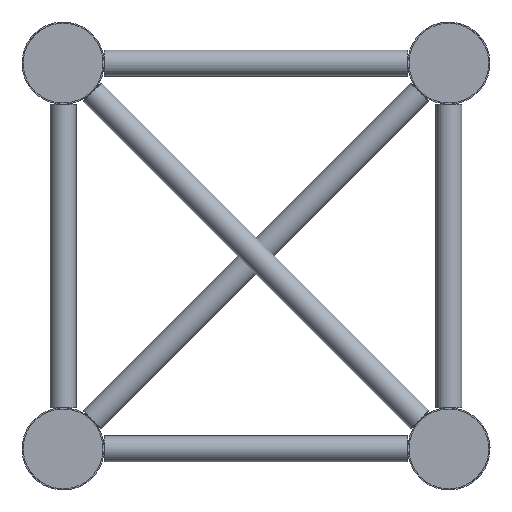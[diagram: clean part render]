
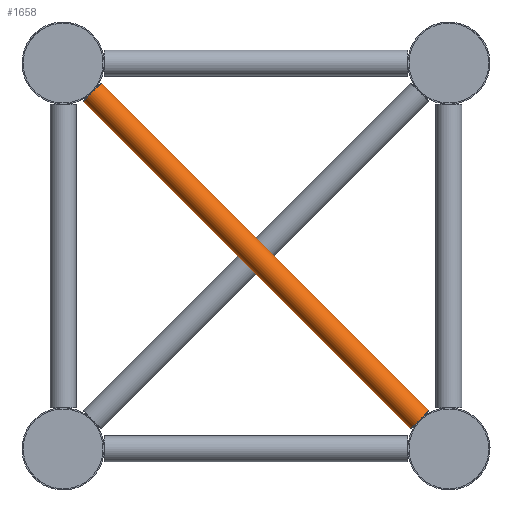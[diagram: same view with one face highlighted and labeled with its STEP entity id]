
A CAD part, left-side view. The second image highlights one B-rep face of the part: STEP entity #1658.
In plain terms, the highlighted cylindrical face has radius 8 mm (diameter 16 mm), a full revolution.
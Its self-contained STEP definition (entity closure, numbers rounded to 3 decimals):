
#39=B_SPLINE_CURVE_WITH_KNOTS('',3,(#2472,#2473,#2474,#2475,#2476,#2477),
 .UNSPECIFIED.,.F.,.F.,(4,2,4),(1.187,1.214,1.242),
 .UNSPECIFIED.);
#41=B_SPLINE_CURVE_WITH_KNOTS('',3,(#2490,#2491,#2492,#2493,#2494,#2495),
 .UNSPECIFIED.,.F.,.F.,(4,2,4),(3.616,3.643,3.67),
 .UNSPECIFIED.);
#46=B_SPLINE_CURVE_WITH_KNOTS('',3,(#2607,#2608,#2609,#2610,#2611,#2612),
 .UNSPECIFIED.,.F.,.F.,(4,2,4),(1.187,1.214,1.242),
 .UNSPECIFIED.);
#47=B_SPLINE_CURVE_WITH_KNOTS('',3,(#2616,#2617,#2618,#2619,#2620,#2621),
 .UNSPECIFIED.,.F.,.F.,(4,2,4),(3.616,3.643,3.67),
 .UNSPECIFIED.);
#169=CYLINDRICAL_SURFACE('',#1787,8.);
#218=FACE_BOUND('',#446,.T.);
#313=FACE_OUTER_BOUND('',#445,.T.);
#445=EDGE_LOOP('',(#1091,#1092,#1093,#1094));
#446=EDGE_LOOP('',(#1095,#1096,#1097,#1098));
#643=CIRCLE('',#1786,8.);
#644=CIRCLE('',#1788,8.);
#645=CIRCLE('',#1789,8.);
#646=CIRCLE('',#1790,8.);
#725=VERTEX_POINT('',#2469);
#726=VERTEX_POINT('',#2471);
#729=VERTEX_POINT('',#2487);
#730=VERTEX_POINT('',#2489);
#744=VERTEX_POINT('',#2605);
#745=VERTEX_POINT('',#2606);
#746=VERTEX_POINT('',#2613);
#747=VERTEX_POINT('',#2615);
#866=EDGE_CURVE('',#726,#725,#39,.T.);
#870=EDGE_CURVE('',#730,#729,#41,.T.);
#886=EDGE_CURVE('',#725,#730,#643,.T.);
#887=EDGE_CURVE('',#744,#745,#46,.T.);
#888=EDGE_CURVE('',#745,#746,#644,.T.);
#889=EDGE_CURVE('',#746,#747,#47,.T.);
#890=EDGE_CURVE('',#747,#744,#645,.T.);
#891=EDGE_CURVE('',#729,#726,#646,.T.);
#1091=ORIENTED_EDGE('',*,*,#887,.T.);
#1092=ORIENTED_EDGE('',*,*,#888,.T.);
#1093=ORIENTED_EDGE('',*,*,#889,.T.);
#1094=ORIENTED_EDGE('',*,*,#890,.T.);
#1095=ORIENTED_EDGE('',*,*,#866,.T.);
#1096=ORIENTED_EDGE('',*,*,#886,.T.);
#1097=ORIENTED_EDGE('',*,*,#870,.T.);
#1098=ORIENTED_EDGE('',*,*,#891,.T.);
#1658=ADVANCED_FACE('',(#313,#218),#169,.T.);
#1786=AXIS2_PLACEMENT_3D('',#2603,#2031,#2032);
#1787=AXIS2_PLACEMENT_3D('',#2604,#2033,#2034);
#1788=AXIS2_PLACEMENT_3D('',#2614,#2035,#2036);
#1789=AXIS2_PLACEMENT_3D('',#2622,#2037,#2038);
#1790=AXIS2_PLACEMENT_3D('',#2623,#2039,#2040);
#2031=DIRECTION('center_axis',(0.,-0.707,
-0.707));
#2032=DIRECTION('ref_axis',(0.,0.707,-0.707));
#2033=DIRECTION('center_axis',(0.,0.707,
0.707));
#2034=DIRECTION('ref_axis',(0.,0.707,-0.707));
#2035=DIRECTION('center_axis',(0.,0.707,
0.707));
#2036=DIRECTION('ref_axis',(0.,0.707,-0.707));
#2037=DIRECTION('center_axis',(0.,0.707,
0.707));
#2038=DIRECTION('ref_axis',(0.,0.707,-0.707));
#2039=DIRECTION('center_axis',(0.,-0.707,
-0.707));
#2040=DIRECTION('ref_axis',(0.,0.707,-0.707));
#2469=CARTESIAN_POINT('',(52.005,221.164,-18.224));
#2471=CARTESIAN_POINT('',(52.005,220.776,-17.836));
#2472=CARTESIAN_POINT('Ctrl Pts',(52.005,220.776,-17.836));
#2473=CARTESIAN_POINT('Ctrl Pts',(52.002,220.84,-17.902));
#2474=CARTESIAN_POINT('Ctrl Pts',(52.,220.904,-17.967));
#2475=CARTESIAN_POINT('Ctrl Pts',(52.,221.033,-18.096));
#2476=CARTESIAN_POINT('Ctrl Pts',(52.002,221.098,-18.16));
#2477=CARTESIAN_POINT('Ctrl Pts',(52.005,221.164,-18.224));
#2487=CARTESIAN_POINT('',(67.995,220.776,-17.836));
#2489=CARTESIAN_POINT('',(67.995,221.164,-18.224));
#2490=CARTESIAN_POINT('Ctrl Pts',(67.995,221.164,-18.224));
#2491=CARTESIAN_POINT('Ctrl Pts',(67.998,221.098,-18.16));
#2492=CARTESIAN_POINT('Ctrl Pts',(68.,221.033,-18.096));
#2493=CARTESIAN_POINT('Ctrl Pts',(68.,220.904,-17.967));
#2494=CARTESIAN_POINT('Ctrl Pts',(67.998,220.84,-17.902));
#2495=CARTESIAN_POINT('Ctrl Pts',(67.995,220.776,-17.836));
#2603=CARTESIAN_POINT('Origin',(60.,220.97,-18.03));
#2604=CARTESIAN_POINT('Origin',(60.,119.5,-119.5));
#2605=CARTESIAN_POINT('',(67.995,17.836,-220.776));
#2606=CARTESIAN_POINT('',(67.995,18.224,-221.164));
#2607=CARTESIAN_POINT('Ctrl Pts',(67.995,17.836,-220.776));
#2608=CARTESIAN_POINT('Ctrl Pts',(67.998,17.902,-220.84));
#2609=CARTESIAN_POINT('Ctrl Pts',(68.,17.967,-220.904));
#2610=CARTESIAN_POINT('Ctrl Pts',(68.,18.096,-221.033));
#2611=CARTESIAN_POINT('Ctrl Pts',(67.998,18.16,-221.098));
#2612=CARTESIAN_POINT('Ctrl Pts',(67.995,18.224,-221.164));
#2613=CARTESIAN_POINT('',(52.005,18.224,-221.164));
#2614=CARTESIAN_POINT('Origin',(60.,18.03,-220.97));
#2615=CARTESIAN_POINT('',(52.005,17.836,-220.776));
#2616=CARTESIAN_POINT('Ctrl Pts',(52.005,18.224,-221.164));
#2617=CARTESIAN_POINT('Ctrl Pts',(52.002,18.16,-221.098));
#2618=CARTESIAN_POINT('Ctrl Pts',(52.,18.096,-221.033));
#2619=CARTESIAN_POINT('Ctrl Pts',(52.,17.967,-220.904));
#2620=CARTESIAN_POINT('Ctrl Pts',(52.002,17.902,-220.84));
#2621=CARTESIAN_POINT('Ctrl Pts',(52.005,17.836,-220.776));
#2622=CARTESIAN_POINT('Origin',(60.,18.03,-220.97));
#2623=CARTESIAN_POINT('Origin',(60.,220.97,-18.03));
